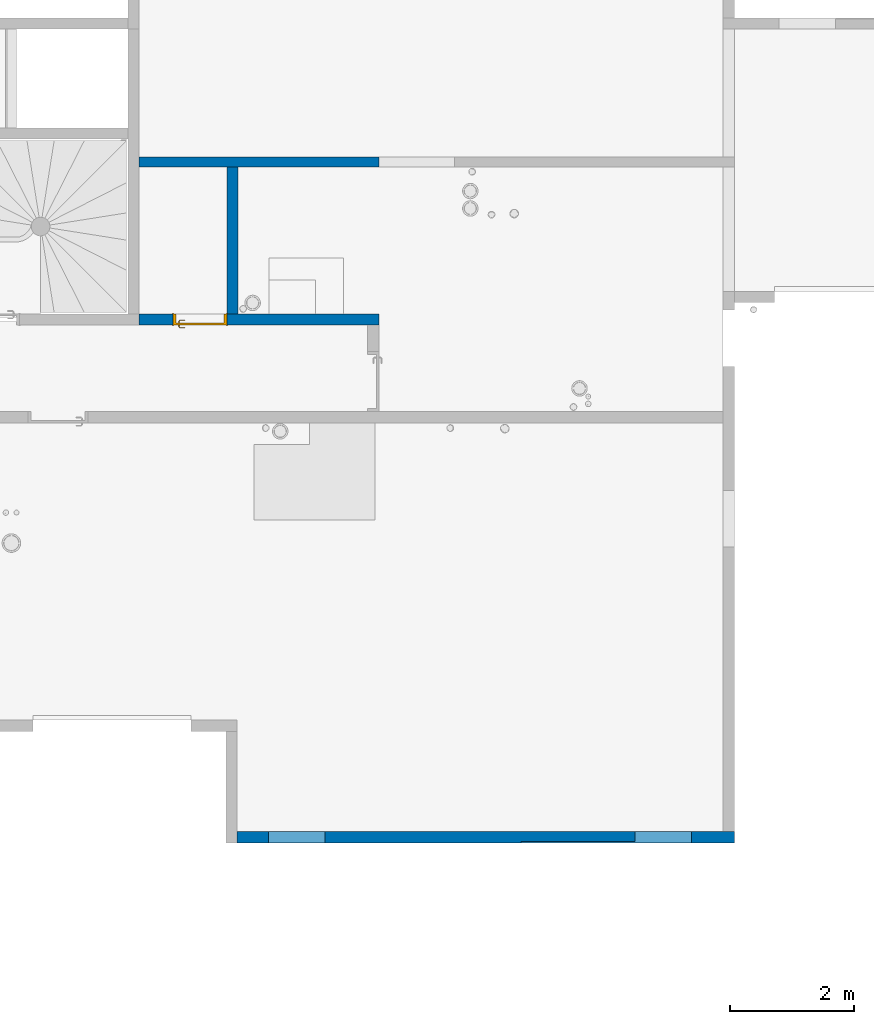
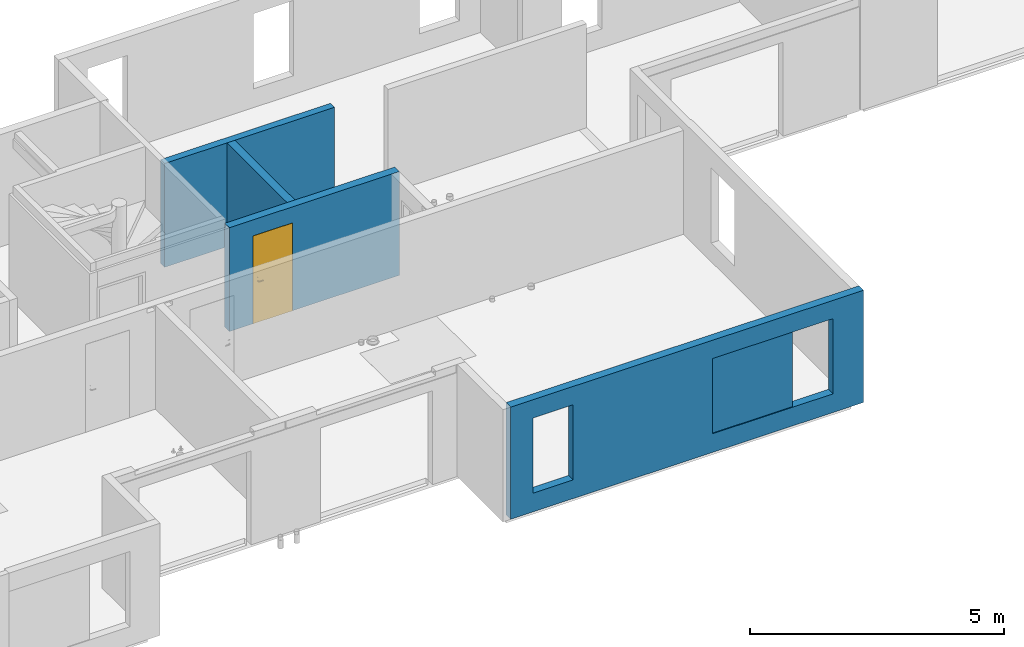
# One storey, part 11 of 30: 4 walls, 1 door, 5 openings.
"""IFC2X3 building model written with IfcOpenShell, lengths in centimetres."""

from ifc_helpers import new_model, entity, si_unit, converted_unit, derived_unit, direction, frame, frame_2d, origin, origin_2d_with_axis, place, context, subcontext, project, spatial, rectangle, extrude, faceted_brep, source, transform, mapped, material, material_list, layer, layer_set, layer_usage, type_object, type_shapes, element, fill, save


model = new_model("IFC2X3")

# Units and contexts
model_context = context("Model", 3, precision=0.001, world=origin(), true_north=direction((6.12303176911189e-17, 1.0)))
body_context = subcontext(model_context, "Body", "Model", "MODEL_VIEW")
ifc_project = project(units=[si_unit("LENGTHUNIT", "METRE", prefix="CENTI"), si_unit("AREAUNIT", "SQUARE_METRE"), si_unit("VOLUMEUNIT", "CUBIC_METRE"), converted_unit("PLANEANGLEUNIT", "DEGREE", entity("IfcRatioMeasure", 0.0174532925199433), si_unit("PLANEANGLEUNIT", "RADIAN"), dimensions=[0, 0, 0, 0, 0, 0, 0]), si_unit("MASSUNIT", "GRAM", prefix="KILO"), derived_unit("MASSDENSITYUNIT", [(si_unit("MASSUNIT", "GRAM", prefix="KILO"), 1), (si_unit("LENGTHUNIT", "METRE"), -3)]), si_unit("TIMEUNIT", "SECOND"), si_unit("FREQUENCYUNIT", "HERTZ"), si_unit("THERMODYNAMICTEMPERATUREUNIT", "DEGREE_CELSIUS"), derived_unit("THERMALTRANSMITTANCEUNIT", [(si_unit("MASSUNIT", "GRAM", prefix="KILO"), 1), (si_unit("THERMODYNAMICTEMPERATUREUNIT", "KELVIN"), -1), (si_unit("TIMEUNIT", "SECOND"), -3)]), derived_unit("VOLUMETRICFLOWRATEUNIT", [(si_unit("LENGTHUNIT", "METRE"), 3), (si_unit("TIMEUNIT", "SECOND"), -1)]), si_unit("ELECTRICCURRENTUNIT", "AMPERE"), si_unit("ELECTRICVOLTAGEUNIT", "VOLT"), si_unit("POWERUNIT", "WATT"), si_unit("FORCEUNIT", "NEWTON"), si_unit("ILLUMINANCEUNIT", "LUX"), si_unit("LUMINOUSFLUXUNIT", "LUMEN"), si_unit("LUMINOUSINTENSITYUNIT", "CANDELA"), derived_unit("USERDEFINED", [(si_unit("MASSUNIT", "GRAM", prefix="KILO"), -1), (si_unit("LENGTHUNIT", "METRE"), -2), (si_unit("TIMEUNIT", "SECOND"), 3), (si_unit("LUMINOUSFLUXUNIT", "LUMEN"), 1)]), derived_unit("LINEARVELOCITYUNIT", [(si_unit("LENGTHUNIT", "METRE"), 1), (si_unit("TIMEUNIT", "SECOND"), -1)]), si_unit("PRESSUREUNIT", "PASCAL"), derived_unit("USERDEFINED", [(si_unit("LENGTHUNIT", "METRE"), -2), (si_unit("MASSUNIT", "GRAM", prefix="KILO"), 1), (si_unit("TIMEUNIT", "SECOND"), -2)])], contexts=[model_context])

# Site, building, storey
site_placement = place(None, origin())
site = spatial("IfcSite", under=ifc_project, at=site_placement, Name="Default", CompositionType="ELEMENT")
building_placement = place(site_placement, origin())
building = spatial("IfcBuilding", under=site, at=building_placement, Name="CAGE 03", CompositionType="ELEMENT")
storey_placement = place(building_placement, frame((0.0, 0.0, 610.0)))
storey = spatial("IfcBuildingStorey", under=building, at=storey_placement, Name="R+2", CompositionType="ELEMENT", Elevation=610.0)

# Wall, openings
ifc_material_1 = material(Name="Béton, C25/30")
ifc_layer_1 = layer(ifc_material_1, 18.0)
ifc_layer_set_1 = layer_set([ifc_layer_1], Name="Mur de base:Voile BA 18")
ifc_layer_usage_1 = layer_usage(ifc_layer_set_1, "AXIS2", "POSITIVE", -9.0)
wall_type_1 = type_object("IfcWallType", Name="Mur de base:Voile BA 18", PredefinedType="STANDARD", material=ifc_layer_set_1)
wall_1_placement = place(storey_placement, frame((7489.36582014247, 3805.6606660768, 0.0)))
wall_1 = element("IfcWallStandardCase", 1, at=wall_1_placement, inside=storey, type_object=wall_type_1, material=ifc_layer_usage_1, Name="Mur de base:Voile BA 18", ObjectType="Mur de base:Voile BA 18", context=body_context, shape_type="SweptSolid", body=[
    extrude(rectangle(XDim=803.000000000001, YDim=18.0000000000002, at=frame_2d((401.500000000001, -2.8421709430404e-14), x_axis=(-1.0, 0.0))), origin(), (0.0, 0.0, 1.0), 270.0),
])
opening_1_placement = place(wall_1_placement, origin())
element("IfcOpeningElement", 2, at=opening_1_placement, cuts=wall_1, Name="Mur de base:Voile BA 18", ObjectType="Recess", context=body_context, shape_type="SweptSolid", body=[
    extrude(rectangle(XDim=181.0, YDim=184.0, at=origin_2d_with_axis()), frame((551.0, -9.0, 135.5), z_axis=(0.0, 1.0, 0.0), x_axis=(0.0, 0.0, -1.0)), (0.0, 0.0, 1.0), 1.99999999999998),
])
opening_2_placement = place(wall_1_placement, origin())
element("IfcOpeningElement", 3, at=opening_2_placement, cuts=wall_1, Name="Mur de base:Voile BA 18", ObjectType="Recess", context=body_context, shape_type="SweptSolid", body=[
    extrude(rectangle(XDim=181.0, YDim=184.0, at=origin_2d_with_axis()), frame((-1050.0, -9.0, 135.5), z_axis=(0.0, 1.0, 0.0), x_axis=(0.0, 0.0, -1.0)), (0.0, 0.0, 1.0), 1.99999999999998),
])
opening_3_placement = place(wall_1_placement, frame((-7489.36582014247, -3805.6606660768, 0.0)))
element("IfcOpeningElement", 4, at=opening_3_placement, cuts=wall_1, Name="Mur de base:Voile BA 18", ObjectType="Opening", context=body_context, shape_type="SweptSolid", body=[
    extrude(rectangle(XDim=181.0, YDim=91.0000000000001, at=frame_2d((0.0, 0.0), x_axis=(0.0, 1.0))), frame((8177.86582014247, 3644.2606660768, 135.5), z_axis=(0.0, 1.0, 0.0), x_axis=(-1.0, 0.0, 0.0)), (0.0, 0.0, 1.0), 304.8),
])
opening_4_placement = place(wall_1_placement, frame((-7489.36582014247, -3805.6606660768, 0.0)))
element("IfcOpeningElement", 5, at=opening_4_placement, cuts=wall_1, Name="Mur de base:Voile BA 18", ObjectType="Opening", context=body_context, shape_type="SweptSolid", body=[
    extrude(rectangle(XDim=181.0, YDim=91.0000000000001, at=frame_2d((0.0, 0.0), x_axis=(0.0, 1.0))), frame((7585.86582014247, 3644.2606660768, 135.5), z_axis=(0.0, 1.0, 0.0), x_axis=(-1.0, 0.0, 0.0)), (0.0, 0.0, 1.0), 304.8),
])

# Wall
ifc_layer_usage_2 = layer_usage(ifc_layer_set_1, "AXIS2", "POSITIVE", -9.0)
wall_2_placement = place(storey_placement, frame((7482.36582014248, 4887.6606660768, 0.0), z_axis=(0.0, 0.0, 1.0), x_axis=(0.0, -1.0, 0.0)))
element("IfcWallStandardCase", 6, at=wall_2_placement, inside=storey, type_object=wall_type_1, material=ifc_layer_usage_2, Name="Mur de base:Voile BA 18", ObjectType="Mur de base:Voile BA 18", context=body_context, shape_type="SweptSolid", body=[
    extrude(rectangle(XDim=236.999999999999, YDim=17.9999999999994, at=frame_2d((118.499999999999, 0.0), x_axis=(-1.0, 0.0))), origin(), (0.0, 0.0, 1.0), 250.0),
])

# Wall, opening, door
ifc_layer_usage_3 = layer_usage(ifc_layer_set_1, "AXIS2", "NEGATIVE", 9.0)
wall_3_placement = place(storey_placement, frame((7331.36582014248, 4641.6606660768, 0.0)))
wall_3 = element("IfcWallStandardCase", 7, at=wall_3_placement, inside=storey, type_object=wall_type_1, material=ifc_layer_usage_3, Name="Mur de base:Voile BA 18", ObjectType="Mur de base:Voile BA 18", context=body_context, shape_type="SweptSolid", body=[
    extrude(rectangle(XDim=386.999999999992, YDim=17.9999999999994, at=frame_2d((193.499999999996, -1.16351372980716e-13), x_axis=(-1.0, 0.0))), origin(), (0.0, 0.0, 1.0), 250.0),
])
opening_5_placement = place(wall_3_placement, frame((142.0, 9.0, 0.0)))
opening_5 = element("IfcOpeningElement", 8, at=opening_5_placement, cuts=wall_3, Name="Int. Simple:HB83:1", ObjectType="Opening", context=body_context, shape_type="SweptSolid", body=[
    extrude(rectangle(XDim=210.000000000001, YDim=86.9999999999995, at=frame_2d((105.000000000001, 43.4999999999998), x_axis=(1.0, 0.0))), frame((0.0, 0.0, 0.0), z_axis=(0.0, -1.0, 0.0), x_axis=(0.0, 0.0, 1.0)), (0.0, 0.0, 1.0), 18.0),
])
ifc_material_2 = material(Name="Finition Peinture - Blanc satiné")
ifc_material_3 = material(Name="Bois - Panneau de porte")
ifc_material_4 = material(Name="Bois - Cadre de porte")
ifc_material_list_1 = material_list([ifc_material_2, ifc_material_3, ifc_material_4])
ifc_material_list_2 = material_list([ifc_material_2, ifc_material_3, ifc_material_4])
door_style = type_object("IfcDoorStyle", Name="HB83", ConstructionType="NOTDEFINED", OperationType="SINGLE_SWING_LEFT", ParameterTakesPrecedence=False, Sizeable=False, material=ifc_material_list_2)
shared_shape = source(origin(), body_context, "Body", "Brep", [
    faceted_brep([(10.5352761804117, -0.500000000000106, 86.6003983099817), (11.5000000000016, -0.500000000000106, 87.0), (11.5000000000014, -0.500000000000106, 108.0), (10.5352761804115, -0.500000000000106, 108.399601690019), (9.50000000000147, -0.500000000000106, 108.535898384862), (8.4647238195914, -0.500000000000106, 108.399601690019), (7.5000000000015, -0.500000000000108, 108.0), (7.50000000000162, -0.500000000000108, 87.0), (8.46472381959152, -0.500000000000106, 86.6003983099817), (9.50000000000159, -0.500000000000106, 86.464101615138), (10.5352761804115, 0.0, 108.399601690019), (11.5000000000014, 0.0, 108.0), (11.5000000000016, 0.0, 87.0), (10.5352761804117, 0.0, 86.6003983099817), (9.50000000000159, 0.0, 86.464101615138), (8.46472381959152, 0.0, 86.6003983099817), (7.50000000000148, 0.0, 87.0), (7.5000000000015, 0.0, 108.0), (8.4647238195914, 0.0, 108.399601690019), (9.50000000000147, 0.0, 108.535898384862)], [[[0, 1, 2, 3, 4, 5, 6, 7, 8, 9]], [[10, 11, 12, 13, 14, 15, 16, 17, 18, 19]], [[16, 15, 8, 7]], [[8, 15, 14, 9]], [[14, 13, 0, 9]], [[13, 12, 1, 0]], [[2, 1, 12, 11]], [[11, 10, 3, 2]], [[3, 10, 19, 4]], [[19, 18, 5, 4]], [[18, 17, 6, 5]], [[7, 6, 17, 16]]]),
    faceted_brep([(10.5352761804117, 3.0, 86.6003983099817), (11.5000000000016, 3.0, 87.0), (11.5000000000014, 3.0, 108.0), (10.5352761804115, 3.0, 108.399601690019), (9.50000000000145, 3.0, 108.535898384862), (8.46472381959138, 3.0, 108.399601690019), (7.50000000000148, 3.0, 108.0), (7.50000000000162, 3.0, 87.0), (8.46472381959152, 3.0, 86.6003983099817), (9.5000000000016, 3.0, 86.464101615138), (10.5352761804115, 3.49999999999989, 108.399601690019), (11.5000000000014, 3.49999999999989, 108.0), (11.5000000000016, 3.49999999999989, 87.0), (10.5352761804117, 3.49999999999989, 86.6003983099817), (9.5000000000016, 3.49999999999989, 86.464101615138), (8.46472381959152, 3.49999999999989, 86.6003983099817), (7.50000000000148, 3.49999999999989, 87.0), (7.50000000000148, 3.49999999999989, 108.0), (8.46472381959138, 3.49999999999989, 108.399601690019), (9.50000000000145, 3.49999999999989, 108.535898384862)], [[[0, 1, 2, 3, 4, 5, 6, 7, 8, 9]], [[10, 11, 12, 13, 14, 15, 16, 17, 18, 19]], [[11, 10, 3, 2]], [[3, 10, 19, 4]], [[19, 18, 5, 4]], [[18, 17, 6, 5]], [[7, 6, 17, 16]], [[16, 15, 8, 7]], [[8, 15, 14, 9]], [[14, 13, 0, 9]], [[13, 12, 1, 0]], [[2, 1, 12, 11]]]),
    faceted_brep([(9.2974701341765, -0.500000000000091, 100.778044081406), (9.70252986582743, -0.500000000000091, 100.778044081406), (10.1000000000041, -0.500000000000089, 100.699999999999), (10.1000000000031, -0.500000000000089, 99.3000000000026), (9.70252986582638, -0.500000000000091, 99.2219559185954), (9.29747013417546, -0.500000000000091, 99.2219559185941), (8.89999999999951, -0.500000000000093, 99.2999999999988), (8.8999999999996, -0.500000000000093, 100.7), (8.89999999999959, -3.26509507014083, 100.7), (9.29747013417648, -3.1004575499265, 100.778044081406), (10.9023585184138, -4.70534593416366, 100.778044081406), (11.0701397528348, -4.30028620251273, 100.778044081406), (9.70252986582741, -2.93267631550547, 100.778044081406), (10.1000000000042, -2.76803879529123, 100.7), (10.1000000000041, -2.76803879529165, 99.3000000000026), (9.70252986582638, -2.93267631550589, 99.2219559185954), (11.0701397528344, -4.30028620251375, 99.2219559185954), (10.9023585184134, -4.70534593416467, 99.2219559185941), (9.29747013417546, -3.10045754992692, 99.2219559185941), (8.89999999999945, -3.26509507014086, 99.2999999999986), (10.7377209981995, -5.10281606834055, 100.7), (11.2347772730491, -3.90281606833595, 100.7), (11.2347772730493, -3.90281606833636, 99.3000000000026), (10.7377209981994, -5.10281606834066, 99.2999999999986), (19.5018640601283, -5.10281606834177, 99.2999999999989), (19.5018640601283, -4.70534593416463, 99.2219559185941), (19.5018640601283, -4.30028620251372, 99.2219559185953), (19.5018640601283, -3.90281606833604, 99.3000000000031), (19.5018640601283, -3.90281606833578, 100.7), (19.5018640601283, -4.30028620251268, 100.778044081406), (19.5018640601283, -4.7053459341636, 100.778044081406), (19.5018640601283, -5.10281606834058, 100.699999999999), (14.7307697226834, -5.10281606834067, 100.7), (15.2860019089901, -4.50281606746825, 100.78786867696), (15.3683206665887, -3.90281606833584, 100.7), (15.3683206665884, -3.90281606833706, 99.3000000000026), (15.2860018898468, -4.50281607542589, 99.2121313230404), (14.7307703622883, -5.10281606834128, 99.2999999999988)], [[[0, 1, 2, 3, 4, 5, 6, 7]], [[8, 9, 0, 7]], [[9, 10, 11, 12, 1, 0]], [[12, 13, 2, 1]], [[3, 2, 13, 14]], [[14, 15, 4, 3]], [[15, 16, 17, 18, 5, 4]], [[18, 19, 6, 5]], [[7, 6, 19, 8]], [[20, 10, 9, 8]], [[11, 21, 13, 12]], [[14, 13, 21, 22]], [[22, 16, 15, 14]], [[17, 23, 19, 18]], [[8, 19, 23, 20]], [[24, 25, 26, 27, 28, 29, 30, 31]], [[32, 30, 33]], [[31, 30, 32]], [[10, 20, 32]], [[33, 34, 11]], [[21, 11, 34]], [[34, 29, 28]], [[30, 29, 33]], [[29, 34, 33]], [[10, 32, 33]], [[10, 33, 11]], [[22, 21, 34, 28, 27, 35]], [[35, 26, 36]], [[37, 36, 25]], [[22, 35, 16]], [[35, 27, 26]], [[24, 37, 25]], [[23, 17, 37]], [[37, 17, 36]], [[17, 16, 36]], [[16, 35, 36]], [[25, 36, 26]], [[20, 23, 37, 24, 31, 32]]]),
    faceted_brep([(9.29747013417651, 3.49999999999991, 100.778044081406), (8.89999999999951, 3.4999999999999, 100.7), (8.89999999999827, 3.4999999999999, 99.299999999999), (9.29747013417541, 3.49999999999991, 99.2219559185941), (9.70252986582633, 3.49999999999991, 99.2219559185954), (10.100000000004, 3.49999999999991, 99.3000000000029), (10.1000000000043, 3.49999999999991, 100.7), (9.70252986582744, 3.49999999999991, 100.778044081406), (10.100000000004, 5.74852045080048, 99.3000000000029), (10.100000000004, 5.74852045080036, 100.7), (9.70252986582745, 5.91315797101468, 100.778044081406), (11.0838906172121, 7.29451872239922, 100.778044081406), (10.9161093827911, 7.69957845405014, 100.778044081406), (9.29747013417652, 6.08093920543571, 100.778044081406), (8.8999999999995, 6.2455767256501, 100.7), (8.89999999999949, 6.24557672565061, 99.299999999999), (9.29747013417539, 6.08093920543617, 99.2219559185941), (10.9161093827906, 7.69957845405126, 99.2219559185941), (11.0838906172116, 7.29451872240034, 99.2219559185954), (9.70252986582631, 5.91315797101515, 99.2219559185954), (11.2485281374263, 6.89704858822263, 99.3000000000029), (11.2485281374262, 6.89704858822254, 100.7), (10.7514718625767, 8.09704858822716, 100.7), (10.7514718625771, 8.09704858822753, 99.299999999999), (19.5045783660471, 6.8970485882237, 99.3000000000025), (19.5045783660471, 7.29451872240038, 99.2219559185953), (19.5045783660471, 7.6995784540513, 99.2219559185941), (19.5045783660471, 8.09704858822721, 99.2999999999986), (19.5045783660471, 8.0970485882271, 100.7), (19.5045783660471, 7.6995784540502, 100.778044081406), (19.5045783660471, 7.29451872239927, 100.778044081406), (19.5045783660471, 6.89704858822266, 100.7), (15.3765532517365, 6.89704858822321, 99.3000000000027), (15.3765532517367, 6.89704858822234, 100.7), (15.2942344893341, 7.4970485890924, 100.78786867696), (14.7445205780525, 8.09704858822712, 100.7), (14.7445205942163, 8.09704858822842, 99.299999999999), (15.2942345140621, 7.49704858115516, 99.2121313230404)], [[[0, 1, 2, 3, 4, 5, 6, 7]], [[6, 5, 8, 9]], [[9, 10, 7, 6]], [[10, 11, 12, 13, 0, 7]], [[13, 14, 1, 0]], [[2, 1, 14, 15]], [[15, 16, 3, 2]], [[16, 17, 18, 19, 4, 3]], [[19, 8, 5, 4]], [[9, 8, 20, 21]], [[21, 11, 10, 9]], [[12, 22, 14, 13]], [[15, 14, 22, 23]], [[23, 17, 16, 15]], [[18, 20, 8, 19]], [[24, 25, 26, 27, 28, 29, 30, 31]], [[21, 20, 32, 24, 31, 33]], [[33, 30, 34]], [[35, 34, 29]], [[21, 33, 11]], [[33, 31, 30]], [[28, 35, 29]], [[22, 12, 35]], [[35, 12, 34]], [[12, 11, 34]], [[11, 33, 34]], [[29, 34, 30]], [[22, 35, 28, 27, 36, 23]], [[36, 26, 37]], [[27, 26, 36]], [[17, 23, 36]], [[37, 32, 18]], [[20, 18, 32]], [[32, 25, 24]], [[26, 25, 37]], [[25, 32, 37]], [[17, 36, 37]], [[17, 37, 18]]]),
    faceted_brep([(3.50000000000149, 3.0, 206.5), (83.5000000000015, 3.0, 206.5), (83.5000000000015, 3.0, 0.0), (3.50000000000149, 3.0, 0.0), (3.50000000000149, 0.0, 206.5), (3.50000000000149, 0.0, 0.0), (83.5000000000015, 0.0, 0.0), (83.5000000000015, 0.0, 206.5)], [[[0, 1, 2, 3]], [[4, 5, 6, 7]], [[1, 0, 4, 7]], [[2, 1, 7, 6]], [[3, 2, 6, 5]], [[0, 3, 5, 4]]]),
    faceted_brep([(0.0, 0.0, 0.0), (0.0, 18.0, 0.0), (5.0, 18.0, 0.0), (5.0, 3.0, 0.0), (3.50000000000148, 3.0, 0.0), (3.50000000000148, 0.0, 0.0), (0.0, 0.0, 210.0), (0.0, 18.0, 210.0), (87.0, 18.0, 210.0), (87.0, 18.0, 0.0), (82.0, 18.0, 0.0), (82.0, 18.0, 205.0), (5.0, 18.0, 205.0), (5.0, 3.0, 205.0), (82.0, 3.0, 205.0), (82.0, 3.0, 0.0), (83.4999999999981, 3.0, 0.0), (83.4999999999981, 3.0, 206.5), (3.50000000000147, 3.0, 206.5), (3.50000000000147, 0.0, 206.5), (83.4999999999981, 0.0, 206.5), (83.4999999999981, 0.0, 0.0), (87.0, 0.0, 0.0), (87.0, 0.0, 210.0)], [[[0, 1, 2, 3, 4, 5]], [[1, 0, 6, 7]], [[2, 1, 7, 8, 9, 10, 11, 12]], [[3, 2, 12, 13]], [[4, 3, 13, 14, 15, 16, 17, 18]], [[5, 4, 18, 19]], [[0, 5, 19, 20, 21, 22, 23, 6]], [[8, 23, 22, 9]], [[22, 21, 16, 15, 10, 9]], [[14, 11, 10, 15]], [[20, 17, 16, 21]], [[7, 6, 23, 8]], [[13, 12, 11, 14]], [[19, 18, 17, 20]]]),
    faceted_brep([(1.5, 18.0, 0.0), (-1.5, 18.0, 0.0), (-1.5, 18.5000000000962, 0.0), (1.5, 18.5000000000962, 0.0), (1.49999999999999, 18.0, 208.500000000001), (85.4999999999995, 18.0, 208.500000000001), (85.4999999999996, 18.0, 0.0), (88.4999999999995, 18.0, 0.0), (88.4999999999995, 18.0, 211.500000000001), (-1.49999999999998, 18.0, 211.500000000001), (-1.49999999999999, 18.5000000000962, 211.500000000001), (88.4999999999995, 18.5000000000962, 211.500000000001), (88.4999999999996, 18.5000000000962, 0.0), (85.4999999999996, 18.5000000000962, 0.0), (85.4999999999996, 18.5000000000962, 208.500000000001), (1.49999999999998, 18.5000000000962, 208.500000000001)], [[[0, 1, 2, 3]], [[1, 0, 4, 5, 6, 7, 8, 9]], [[2, 1, 9, 10]], [[3, 2, 10, 11, 12, 13, 14, 15]], [[0, 3, 15, 4]], [[6, 13, 12, 7]], [[5, 14, 13, 6]], [[11, 8, 7, 12]], [[10, 9, 8, 11]], [[4, 15, 14, 5]]]),
    faceted_brep([(-1.5, -0.5, 0.0), (1.5, -0.5, 0.0), (1.49999999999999, -0.5, 208.500000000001), (85.4999999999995, -0.5, 208.500000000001), (85.4999999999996, -0.5, 0.0), (88.4999999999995, -0.5, 0.0), (88.4999999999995, -0.5, 211.500000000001), (-1.49999999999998, -0.5, 211.500000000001), (-1.5, 0.0, 0.0), (-1.49999999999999, 0.0, 211.500000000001), (1.5, 0.0, 0.0), (88.4999999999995, 0.0, 211.500000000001), (88.4999999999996, 0.0, 0.0), (85.4999999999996, 0.0, 0.0), (85.4999999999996, 0.0, 208.500000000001), (1.49999999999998, 0.0, 208.500000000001)], [[[0, 1, 2, 3, 4, 5, 6, 7]], [[8, 0, 7, 9]], [[10, 8, 9, 11, 12, 13, 14, 15]], [[1, 10, 15, 2]], [[3, 14, 13, 4]], [[11, 6, 5, 12]], [[9, 7, 6, 11]], [[2, 15, 14, 3]], [[4, 13, 12, 5]], [[1, 0, 8, 10]]]),
])
type_shapes(door_style, [shared_shape])
door_placement = place(opening_5_placement, frame((-87.0, -18.0, 0.0)))
door = element("IfcDoor", 9, at=door_placement, inside=storey, type_object=door_style, material=ifc_material_list_1, Name="Int. Simple:HB83", ObjectType="HB83", OverallHeight=210.000000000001, OverallWidth=86.9999999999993, context=body_context, shape_type="MappedRepresentation", body=[
    mapped(shared_shape, transform((0.0, 0.0, 0.0), scale=1.0)),
])
fill(opening_5, door)

# Wall
ifc_layer_2 = layer(ifc_material_1, 16.0)
ifc_layer_set_2 = layer_set([ifc_layer_2], Name="Mur de base:Voile BA 16")
ifc_layer_usage_4 = layer_usage(ifc_layer_set_2, "AXIS2", "NEGATIVE", 8.0)
wall_type_2 = type_object("IfcWallType", Name="Mur de base:Voile BA 16", PredefinedType="STANDARD", material=ifc_layer_set_2)
wall_4_placement = place(storey_placement, frame((7331.36582014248, 4895.6606660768, 0.0)))
element("IfcWallStandardCase", 10, at=wall_4_placement, inside=storey, type_object=wall_type_2, material=ifc_layer_usage_4, Name="Mur de base:Voile BA 16", ObjectType="Mur de base:Voile BA 16", context=body_context, shape_type="SweptSolid", body=[
    extrude(rectangle(XDim=386.999999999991, YDim=15.9999999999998, at=frame_2d((193.499999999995, 3.01980662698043e-14), x_axis=(-1.0, 0.0))), origin(), (0.0, 0.0, 1.0), 250.0),
])

save(model, "model.ifc")
